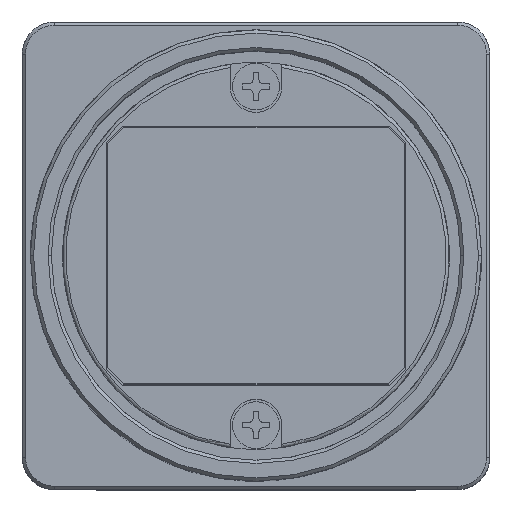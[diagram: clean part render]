
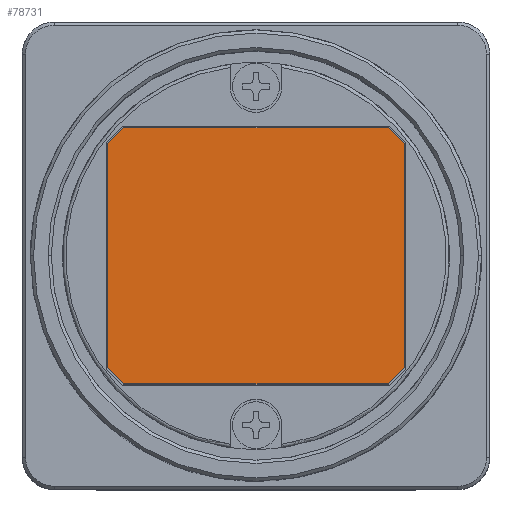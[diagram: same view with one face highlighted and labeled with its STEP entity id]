
A CAD part, top view. The second image highlights one B-rep face of the part: STEP entity #78731.
In plain terms, the highlighted planar face has unit normal (0, 0, 1).
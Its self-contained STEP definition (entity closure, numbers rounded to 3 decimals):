
#1715 = ORIENTED_EDGE ( 'NONE', *, *, #41455, .T. ) ;
#1742 = CARTESIAN_POINT ( 'NONE',  ( 5.635, 6.322, 12.529 ) ) ;
#1779 = VERTEX_POINT ( 'NONE', #30853 ) ;
#2342 = ORIENTED_EDGE ( 'NONE', *, *, #135550, .T. ) ;
#6065 = ORIENTED_EDGE ( 'NONE', *, *, #10940, .T. ) ;
#6269 = LINE ( 'NONE', #17694, #33714 ) ;
#10940 = EDGE_CURVE ( 'NONE', #1779, #76324, #93900, .T. ) ;
#13568 = DIRECTION ( 'NONE',  ( 1., 0., 0. ) ) ;
#14450 = ORIENTED_EDGE ( 'NONE', *, *, #38786, .T. ) ;
#17427 = AXIS2_PLACEMENT_3D ( 'NONE', #69490, #93148, #22797 ) ;
#17694 = CARTESIAN_POINT ( 'NONE',  ( 22.035, 6.322, 12.529 ) ) ;
#18000 = EDGE_LOOP ( 'NONE', ( #2342, #20198, #55224, #1715, #6065, #121104, #108568, #14450 ) ) ;
#20198 = ORIENTED_EDGE ( 'NONE', *, *, #150093, .T. ) ;
#22135 = LINE ( 'NONE', #1742, #80934 ) ;
#22136 = EDGE_CURVE ( 'NONE', #37271, #23050, #6269, .T. ) ;
#22313 = VERTEX_POINT ( 'NONE', #31977 ) ;
#22797 = DIRECTION ( 'NONE',  ( 1., 0., 0. ) ) ;
#23050 = VERTEX_POINT ( 'NONE', #58387 ) ;
#30853 = CARTESIAN_POINT ( 'NONE',  ( 23.035, 21.222, 12.529 ) ) ;
#31381 = VECTOR ( 'NONE', #86887, 1000. ) ;
#31977 = CARTESIAN_POINT ( 'NONE',  ( 5.635, 6.322, 12.529 ) ) ;
#32610 = DIRECTION ( 'NONE',  ( -1., 0., 0. ) ) ;
#33304 = EDGE_CURVE ( 'NONE', #76324, #79874, #123182, .T. ) ;
#33714 = VECTOR ( 'NONE', #146536, 1000. ) ;
#37271 = VERTEX_POINT ( 'NONE', #106121 ) ;
#37914 = VECTOR ( 'NONE', #52969, 1000. ) ;
#37974 = FACE_OUTER_BOUND ( 'NONE', #18000, .T. ) ;
#38786 = EDGE_CURVE ( 'NONE', #65122, #141292, #44540, .T. ) ;
#41455 = EDGE_CURVE ( 'NONE', #23050, #1779, #56386, .T. ) ;
#41596 = LINE ( 'NONE', #99258, #37914 ) ;
#44540 = LINE ( 'NONE', #98791, #134702 ) ;
#46711 = CARTESIAN_POINT ( 'NONE',  ( 5.635, 22.222, 12.529 ) ) ;
#46760 = VECTOR ( 'NONE', #140706, 1000. ) ;
#52969 = DIRECTION ( 'NONE',  ( 0.707, -0.707, 0. ) ) ;
#53741 = CARTESIAN_POINT ( 'NONE',  ( 22.035, 22.222, 12.529 ) ) ;
#55224 = ORIENTED_EDGE ( 'NONE', *, *, #22136, .T. ) ;
#56386 = LINE ( 'NONE', #139455, #146472 ) ;
#58387 = CARTESIAN_POINT ( 'NONE',  ( 23.035, 7.322, 12.529 ) ) ;
#65122 = VERTEX_POINT ( 'NONE', #133423 ) ;
#69490 = CARTESIAN_POINT ( 'NONE',  ( 7.727, 0.14, 12.529 ) ) ;
#71399 = EDGE_CURVE ( 'NONE', #79874, #65122, #113018, .T. ) ;
#76324 = VERTEX_POINT ( 'NONE', #53741 ) ;
#78731 = ADVANCED_FACE ( 'NONE', ( #37974 ), #139827, .T. ) ;
#79874 = VERTEX_POINT ( 'NONE', #110277 ) ;
#80934 = VECTOR ( 'NONE', #13568, 1000. ) ;
#86887 = DIRECTION ( 'NONE',  ( -0.707, 0.707, 0. ) ) ;
#91884 = VECTOR ( 'NONE', #32610, 1000. ) ;
#93148 = DIRECTION ( 'NONE',  ( 0., 0., 1. ) ) ;
#93900 = LINE ( 'NONE', #121799, #31381 ) ;
#98791 = CARTESIAN_POINT ( 'NONE',  ( 4.635, 21.222, 12.529 ) ) ;
#99243 = CARTESIAN_POINT ( 'NONE',  ( 4.635, 7.322, 12.529 ) ) ;
#99258 = CARTESIAN_POINT ( 'NONE',  ( 4.635, 7.322, 12.529 ) ) ;
#106121 = CARTESIAN_POINT ( 'NONE',  ( 22.035, 6.322, 12.529 ) ) ;
#108568 = ORIENTED_EDGE ( 'NONE', *, *, #71399, .T. ) ;
#110277 = CARTESIAN_POINT ( 'NONE',  ( 5.635, 22.222, 12.529 ) ) ;
#113018 = LINE ( 'NONE', #46711, #46760 ) ;
#121104 = ORIENTED_EDGE ( 'NONE', *, *, #33304, .T. ) ;
#121799 = CARTESIAN_POINT ( 'NONE',  ( 23.035, 21.222, 12.529 ) ) ;
#123182 = LINE ( 'NONE', #137405, #91884 ) ;
#133423 = CARTESIAN_POINT ( 'NONE',  ( 4.635, 21.222, 12.529 ) ) ;
#133669 = DIRECTION ( 'NONE',  ( 0., -1., 0. ) ) ;
#134702 = VECTOR ( 'NONE', #133669, 1000. ) ;
#135550 = EDGE_CURVE ( 'NONE', #141292, #22313, #41596, .T. ) ;
#137405 = CARTESIAN_POINT ( 'NONE',  ( 22.035, 22.222, 12.529 ) ) ;
#139455 = CARTESIAN_POINT ( 'NONE',  ( 23.035, 7.322, 12.529 ) ) ;
#139827 = PLANE ( 'NONE',  #17427 ) ;
#140706 = DIRECTION ( 'NONE',  ( -0.707, -0.707, 0. ) ) ;
#141292 = VERTEX_POINT ( 'NONE', #99243 ) ;
#146472 = VECTOR ( 'NONE', #151300, 1000. ) ;
#146536 = DIRECTION ( 'NONE',  ( 0.707, 0.707, 0. ) ) ;
#150093 = EDGE_CURVE ( 'NONE', #22313, #37271, #22135, .T. ) ;
#151300 = DIRECTION ( 'NONE',  ( 0., 1., 0. ) ) ;
